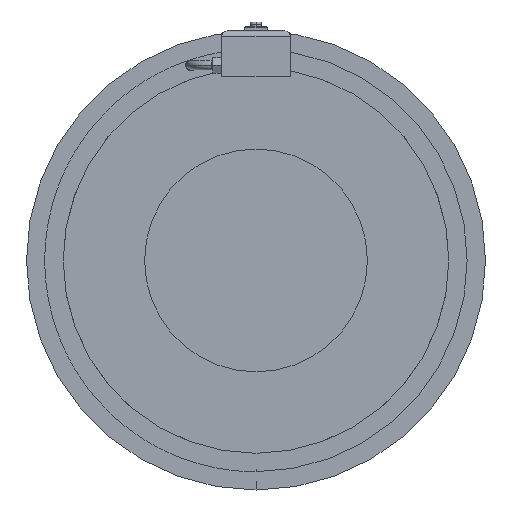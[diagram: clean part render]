
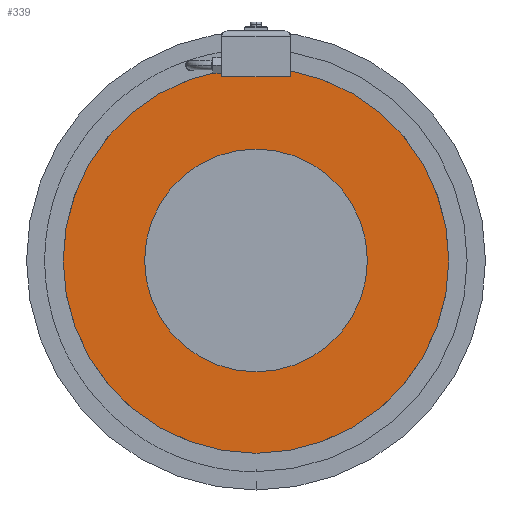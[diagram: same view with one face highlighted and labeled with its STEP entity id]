
A CAD part, front view. The second image highlights one B-rep face of the part: STEP entity #339.
In plain terms, the highlighted planar face has unit normal (0, -1, 0).
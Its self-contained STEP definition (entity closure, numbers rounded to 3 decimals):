
#339=ADVANCED_FACE('',(#714,#715),#716,.T.);
#714=FACE_OUTER_BOUND('',#1094,.T.);
#715=FACE_BOUND('',#1095,.T.);
#716=PLANE('',#1096);
#1094=EDGE_LOOP('',(#2058,#2059,#2060,#2061,#2062));
#1095=EDGE_LOOP('',(#2063,#2064));
#1096=AXIS2_PLACEMENT_3D('',#2065,#2066,#2067);
#2058=ORIENTED_EDGE('',*,*,#2356,.T.);
#2059=ORIENTED_EDGE('',*,*,#2255,.T.);
#2060=ORIENTED_EDGE('',*,*,#2570,.T.);
#2061=ORIENTED_EDGE('',*,*,#2478,.T.);
#2062=ORIENTED_EDGE('',*,*,#2368,.T.);
#2063=ORIENTED_EDGE('',*,*,#2571,.F.);
#2064=ORIENTED_EDGE('',*,*,#2250,.F.);
#2065=CARTESIAN_POINT('',(0.,-156.0,0.));
#2066=DIRECTION('',(0.,-1.0,0.));
#2067=DIRECTION('',(0.,0.0,1.0));
#2250=EDGE_CURVE('',#2731,#2733,#2734,.T.);
#2255=EDGE_CURVE('',#2742,#2739,#2743,.T.);
#2356=EDGE_CURVE('',#2915,#2742,#2916,.T.);
#2368=EDGE_CURVE('',#2937,#2915,#2938,.T.);
#2478=EDGE_CURVE('',#3084,#2937,#3085,.T.);
#2570=EDGE_CURVE('',#2739,#3084,#3208,.T.);
#2571=EDGE_CURVE('',#2733,#2731,#3209,.T.);
#2731=VERTEX_POINT('',#4327);
#2733=VERTEX_POINT('',#4330);
#2734=CIRCLE('',#4331,99.5);
#2739=VERTEX_POINT('',#4337);
#2742=VERTEX_POINT('',#4341);
#2743=CIRCLE('',#4342,172.2);
#2915=VERTEX_POINT('',#4595);
#2916=LINE('',#4596,#4597);
#2937=VERTEX_POINT('',#4628);
#2938=LINE('',#4629,#4630);
#3084=VERTEX_POINT('',#5099);
#3085=LINE('',#5100,#5101);
#3208=CIRCLE('',#5651,172.2);
#3209=CIRCLE('',#5652,99.5);
#4327=CARTESIAN_POINT('',(0.,-156.0,99.5));
#4330=CARTESIAN_POINT('',(0.,-156.0,-99.5));
#4331=AXIS2_PLACEMENT_3D('',#5788,#5789,#5790);
#4337=CARTESIAN_POINT('',(0.,-156.0,-172.2));
#4341=CARTESIAN_POINT('',(-30.75,-156.0,169.432));
#4342=AXIS2_PLACEMENT_3D('',#5796,#5797,#5798);
#4595=CARTESIAN_POINT('',(-30.75,-156.0,164.0));
#4596=CARTESIAN_POINT('',(-30.75,-156.0,92.25));
#4597=VECTOR('',#5957,1.0);
#4628=CARTESIAN_POINT('',(30.75,-156.0,164.0));
#4629=CARTESIAN_POINT('',(0.,-156.0,164.0));
#4630=VECTOR('',#5968,1.0);
#5099=CARTESIAN_POINT('',(30.75,-156.0,169.432));
#5100=CARTESIAN_POINT('',(30.75,-156.0,92.25));
#5101=VECTOR('',#6070,1.0);
#5651=AXIS2_PLACEMENT_3D('',#6198,#6199,#6200);
#5652=AXIS2_PLACEMENT_3D('',#6201,#6202,#6203);
#5788=CARTESIAN_POINT('',(0.,-156.0,0.));
#5789=DIRECTION('',(0.,-1.0,0.));
#5790=DIRECTION('',(0.,0.0,1.0));
#5796=CARTESIAN_POINT('',(0.,-156.0,0.));
#5797=DIRECTION('',(0.,-1.0,0.));
#5798=DIRECTION('',(0.,0.0,1.0));
#5957=DIRECTION('',(0.,0.0,1.0));
#5968=DIRECTION('',(-1.0,0.,0.));
#6070=DIRECTION('',(0.,0.0,-1.0));
#6198=CARTESIAN_POINT('',(0.,-156.0,0.));
#6199=DIRECTION('',(0.,-1.0,0.));
#6200=DIRECTION('',(0.,0.0,1.0));
#6201=CARTESIAN_POINT('',(0.,-156.0,0.));
#6202=DIRECTION('',(0.,-1.0,0.));
#6203=DIRECTION('',(0.,0.0,1.0));
